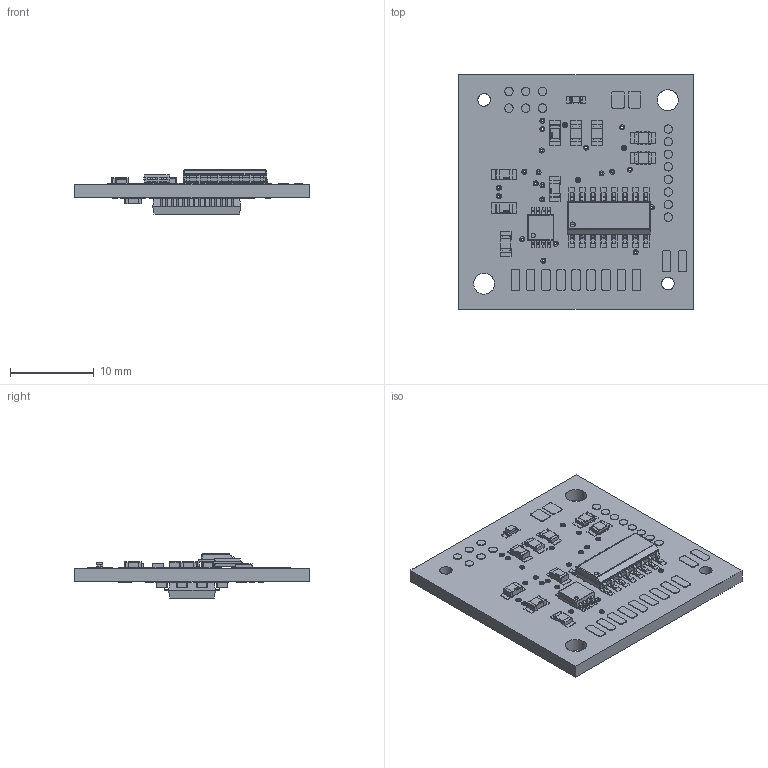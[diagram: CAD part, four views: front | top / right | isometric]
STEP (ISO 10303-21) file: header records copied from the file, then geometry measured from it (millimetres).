
FILE_DESCRIPTION (( 'STEP AP203' ), '1' );
FILE_NAME ('MODM154-3D.STEP', '2019-03-06T10:13:01', ( '' ), ( '' ), 'SwSTEP 2.0', 'SolidWorks 2016', '' );
FILE_SCHEMA (( 'CONFIG_CONTROL_DESIGN' ));
Length unit declared in the file: millimetre
Products named in the file (1): MODM154-3D
Bounding box: 28 x 28 x 5.27 mm (x, y, z)
Volume: 1433.8 mm3; surface area: 2761.2 mm2
Topology: 240 solids, 240 shells, 3232 faces, 7500 edges, 4756 vertices
Faces by surface type: plane 1878, bspline 874, cylinder 480
Entity records: 138037 total; most frequent: CARTESIAN_POINT 72046, ORIENTED_EDGE 14872, DIRECTION 10482, EDGE_CURVE 7436, VERTEX_POINT 4756, VECTOR 4414, LINE 4414, EDGE_LOOP 3474
